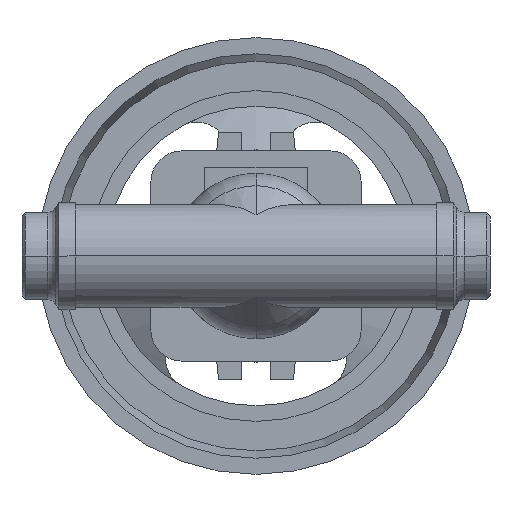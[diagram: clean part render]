
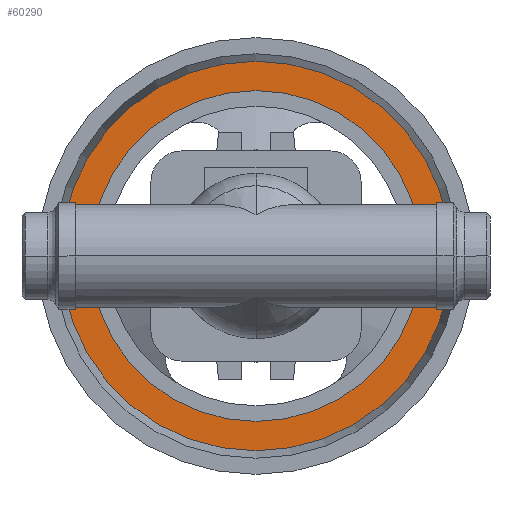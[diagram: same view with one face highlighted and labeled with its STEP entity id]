
A CAD part, front view. The second image highlights one B-rep face of the part: STEP entity #60290.
In plain terms, the highlighted planar face has unit normal (0, -1, 0).
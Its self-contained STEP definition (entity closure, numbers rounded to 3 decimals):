
#59740=CARTESIAN_POINT('',(12.588,246.7,0.));
#59750=VERTEX_POINT('',#59740);
#59780=CARTESIAN_POINT('',(75.,246.7,0.));
#59790=DIRECTION('',(0.,1.,0.));
#59800=DIRECTION('',(-1.,0.,0.));
#59810=AXIS2_PLACEMENT_3D('',#59780,#59790,#59800);
#59820=CIRCLE('',#59810,62.412);
#59830=CARTESIAN_POINT('',(137.412,246.7,0.)
);
#59840=VERTEX_POINT('',#59830);
#59850=EDGE_CURVE('',#59840,#59750,#59820,.T.);
#60040=CARTESIAN_POINT('',(17.294,246.7,0.));
#60050=DIRECTION('',(0.,-1.,0.));
#60060=DIRECTION('',(1.,0.,0.));
#60070=AXIS2_PLACEMENT_3D('',#60040,#60050,#60060);
#60080=PLANE('',#60070);
#60090=EDGE_CURVE('',#59750,#59840,#59820,.T.);
#60100=ORIENTED_EDGE('',*,*,#60090,.F.);
#60110=ORIENTED_EDGE('',*,*,#59850,.F.);
#60120=EDGE_LOOP('',(#60110,#60100));
#60130=FACE_OUTER_BOUND('',#60120,.T.);
#60140=CARTESIAN_POINT('',(75.,246.7,0.));
#60150=DIRECTION('',(0.,1.,0.));
#60160=DIRECTION('',(-1.,0.,0.));
#60170=AXIS2_PLACEMENT_3D('',#60140,#60150,#60160);
#60180=CIRCLE('',#60170,53.);
#60190=CARTESIAN_POINT('',(128.,246.7,0.));
#60200=VERTEX_POINT('',#60190);
#60210=CARTESIAN_POINT('',(22.,246.7,0.));
#60220=VERTEX_POINT('',#60210);
#60230=EDGE_CURVE('',#60200,#60220,#60180,.T.);
#60240=ORIENTED_EDGE('',*,*,#60230,.T.);
#60250=EDGE_CURVE('',#60220,#60200,#60180,.T.);
#60260=ORIENTED_EDGE('',*,*,#60250,.T.);
#60270=EDGE_LOOP('',(#60260,#60240));
#60280=FACE_BOUND('',#60270,.T.);
#60290=ADVANCED_FACE('',(#60130,#60280),#60080,.T.);
